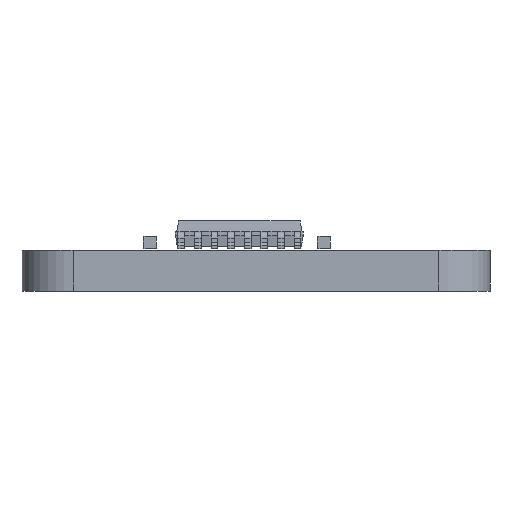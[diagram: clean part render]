
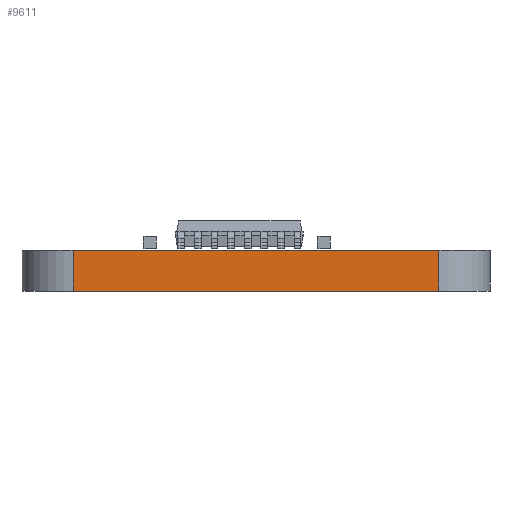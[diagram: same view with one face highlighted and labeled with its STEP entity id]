
A CAD part, left-side view. The second image highlights one B-rep face of the part: STEP entity #9611.
In plain terms, the highlighted planar face has unit normal (-1, 0, 0).
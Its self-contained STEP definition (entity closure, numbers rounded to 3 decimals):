
#9040 = VERTEX_POINT('',#9041);
#9041 = CARTESIAN_POINT('',(116.5,-105.7,0.));
#9048 = EDGE_CURVE('',#9049,#9040,#9051,.T.);
#9049 = VERTEX_POINT('',#9050);
#9050 = CARTESIAN_POINT('',(116.5,-120.,0.));
#9051 = LINE('',#9052,#9053);
#9052 = CARTESIAN_POINT('',(116.5,-120.,0.));
#9053 = VECTOR('',#9054,1.);
#9054 = DIRECTION('',(0.,1.,0.));
#9312 = VERTEX_POINT('',#9313);
#9313 = CARTESIAN_POINT('',(116.5,-105.7,1.6));
#9320 = EDGE_CURVE('',#9321,#9312,#9323,.T.);
#9321 = VERTEX_POINT('',#9322);
#9322 = CARTESIAN_POINT('',(116.5,-120.,1.6));
#9323 = LINE('',#9324,#9325);
#9324 = CARTESIAN_POINT('',(116.5,-120.,1.6));
#9325 = VECTOR('',#9326,1.);
#9326 = DIRECTION('',(0.,1.,0.));
#9581 = EDGE_CURVE('',#9040,#9312,#9582,.T.);
#9582 = LINE('',#9583,#9584);
#9583 = CARTESIAN_POINT('',(116.5,-105.7,0.));
#9584 = VECTOR('',#9585,1.);
#9585 = DIRECTION('',(0.,0.,1.));
#9611 = ADVANCED_FACE('',(#9612),#9623,.T.);
#9612 = FACE_BOUND('',#9613,.T.);
#9613 = EDGE_LOOP('',(#9614,#9620,#9621,#9622));
#9614 = ORIENTED_EDGE('',*,*,#9615,.T.);
#9615 = EDGE_CURVE('',#9049,#9321,#9616,.T.);
#9616 = LINE('',#9617,#9618);
#9617 = CARTESIAN_POINT('',(116.5,-120.,0.));
#9618 = VECTOR('',#9619,1.);
#9619 = DIRECTION('',(0.,0.,1.));
#9620 = ORIENTED_EDGE('',*,*,#9320,.T.);
#9621 = ORIENTED_EDGE('',*,*,#9581,.F.);
#9622 = ORIENTED_EDGE('',*,*,#9048,.F.);
#9623 = PLANE('',#9624);
#9624 = AXIS2_PLACEMENT_3D('',#9625,#9626,#9627);
#9625 = CARTESIAN_POINT('',(116.5,-120.,0.));
#9626 = DIRECTION('',(-1.,0.,0.));
#9627 = DIRECTION('',(0.,1.,0.));
